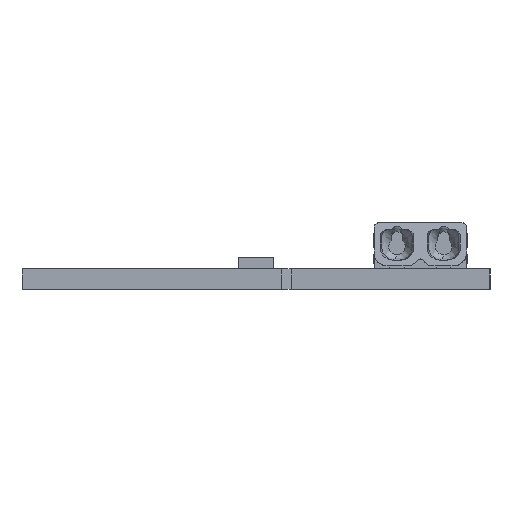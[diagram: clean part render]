
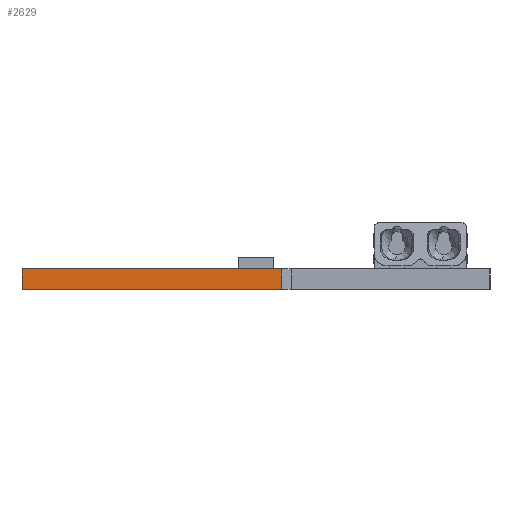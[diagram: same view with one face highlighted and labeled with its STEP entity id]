
A CAD part, left-side view. The second image highlights one B-rep face of the part: STEP entity #2629.
In plain terms, the highlighted planar face has unit normal (-1, 0, 0).
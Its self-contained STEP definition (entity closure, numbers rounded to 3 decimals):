
#249=CARTESIAN_POINT('',(-280.0,20.,1.75));
#250=VERTEX_POINT('',#249);
#257=CARTESIAN_POINT('',(-280.0,-2.2,1.75));
#258=VERTEX_POINT('',#257);
#259=CARTESIAN_POINT('',(-280.0,-2.2,1.75));
#260=DIRECTION('',(0.0,1.0,0.0));
#261=VECTOR('',#260,22.2);
#262=LINE('',#259,#261);
#263=EDGE_CURVE('',#258,#250,#262,.T.);
#2447=CARTESIAN_POINT('',(-280.0,-2.2,0.0));
#2448=VERTEX_POINT('',#2447);
#2455=CARTESIAN_POINT('',(-280.0,20.,0.0));
#2456=VERTEX_POINT('',#2455);
#2457=CARTESIAN_POINT('',(-280.0,-2.2,0.0));
#2458=DIRECTION('',(0.0,1.0,0.0));
#2459=VECTOR('',#2458,22.2);
#2460=LINE('',#2457,#2459);
#2461=EDGE_CURVE('',#2448,#2456,#2460,.T.);
#2587=CARTESIAN_POINT('',(-280.0,-2.2,0.0));
#2588=DIRECTION('',(0.0,0.0,1.0));
#2589=VECTOR('',#2588,1.75);
#2590=LINE('',#2587,#2589);
#2591=EDGE_CURVE('',#2448,#258,#2590,.T.);
#2613=CARTESIAN_POINT('',(-280.0,-20.,0.0));
#2614=DIRECTION('',(-1.0,0.0,0.0));
#2615=DIRECTION('',(0.0,0.0,1.0));
#2616=AXIS2_PLACEMENT_3D('',#2613,#2614,#2615);
#2617=PLANE('',#2616);
#2618=ORIENTED_EDGE('',*,*,#2591,.T.);
#2619=ORIENTED_EDGE('',*,*,#263,.T.);
#2620=CARTESIAN_POINT('',(-280.0,20.,0.0));
#2621=DIRECTION('',(0.0,0.0,1.0));
#2622=VECTOR('',#2621,1.75);
#2623=LINE('',#2620,#2622);
#2624=EDGE_CURVE('',#2456,#250,#2623,.T.);
#2625=ORIENTED_EDGE('',*,*,#2624,.F.);
#2626=ORIENTED_EDGE('',*,*,#2461,.F.);
#2627=EDGE_LOOP('',(#2618,#2619,#2625,#2626));
#2628=FACE_OUTER_BOUND('',#2627,.T.);
#2629=ADVANCED_FACE('',(#2628),#2617,.T.);
